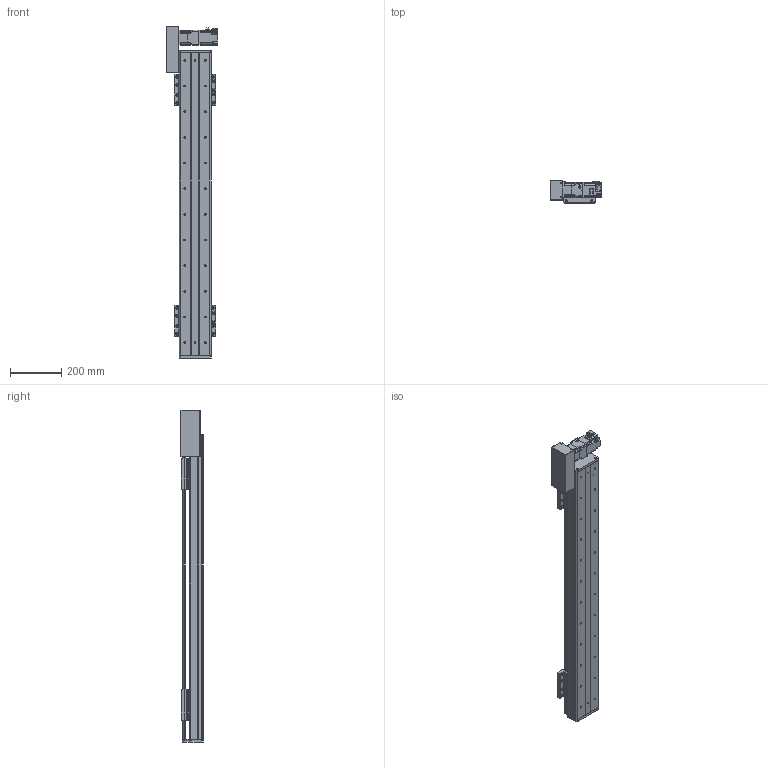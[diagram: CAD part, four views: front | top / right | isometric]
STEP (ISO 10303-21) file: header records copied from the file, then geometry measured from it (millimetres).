
FILE_DESCRIPTION(/* description */ (''),/* implementation_level */ '2;1');
FILE_NAME(/* name */ 'C:\Users\PC\Desktop\3D도면\STEP\DSB125-L2G-W0900-R.stp',/* time_stamp */ '2018-06-13T10:16:35+09:00',/* author */ ('PC'),/* organization */ (''),/* preprocessor_version */ 'ST-DEVELOPER v16.5',/* originating_system */ 'Autodesk Inventor 2017',/* authorisation */ '');
FILE_SCHEMA (('AUTOMOTIVE_DESIGN { 1 0 10303 214 3 1 1 }'));
Length unit declared in the file: millimetre
Products named in the file (12): DSB125-L-300ST; DSR125-BASE(S-TYPE); DSR125-REAR COVER-R01(170203); DSR125-REAR COVER-R01(170203)_1; DSR125-UP COVER-R01(170203); DSR125-TABLE(MSA15X); hg-kr23_; ab0601-p0401200402; 13-BELT COVER; DSR126-SENSOR DOG; pm-y65_step; SENSOR BRACKET(EE-SX674A)
Assembly tree (16 placements, depth 2):
  DSB125-L-300ST
    DSR125-BASE(S-TYPE)
    DSR125-REAR COVER-R01(170203)
    DSR125-REAR COVER-R01(170203)_1
    DSR125-UP COVER-R01(170203)
    DSR125-TABLE(MSA15X)  x2
    hg-kr23_
    ab0601-p0401200402
    13-BELT COVER
    DSR126-SENSOR DOG
    pm-y65_step  x3
    SENSOR BRACKET(EE-SX674A)  x3
Bounding box: 202.1 x 88 x 1294 mm (x, y, z)
Volume: 4538754.6 mm3; surface area: 1308778.1 mm2
Topology: 17 solids, 22 shells, 1669 faces, 4521 edges, 2982 vertices
Faces by surface type: plane 908, cylinder 635, cone 114, sphere 8, torus 4
Full cylindrical faces by diameter (mm): 2.459 x20, 3.242 x16, 3.5 x6, 4 x1, 4.134 x16, 4.2 x4, 4.3 x1, 4.5 x50, 4.917 x20, 5 x27, 5.3 x1, 5.5 x4, 5.6 x8, 5.8 x4, 5.9 x8, 6 x4, 6.6 x22, 6.647 x24, 7.5 x32, 8.5 x8, 8.7 x1, 11 x22, 14 x1, 16 x2, 17 x1, 20 x1, 47 x1, 50 x3
Entity records: 35510 total; most frequent: CARTESIAN_POINT 6523, DIRECTION 6156, ORIENTED_EDGE 5494, EDGE_CURVE 2752, AXIS2_PLACEMENT_3D 2266, VERTEX_POINT 1961, EDGE_LOOP 1689, LINE 1624
